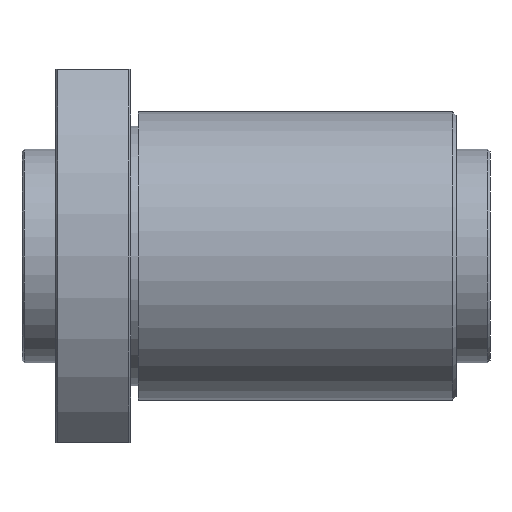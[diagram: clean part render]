
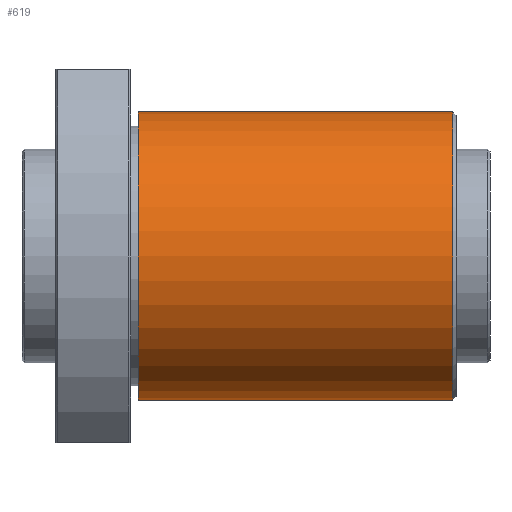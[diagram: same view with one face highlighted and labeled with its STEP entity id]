
A CAD part, front view. The second image highlights one B-rep face of the part: STEP entity #619.
In plain terms, the highlighted cylindrical face has radius 42.5 mm (diameter 85 mm), a full revolution.
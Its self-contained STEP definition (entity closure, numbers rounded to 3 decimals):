
#61=CYLINDRICAL_SURFACE('',#724,42.5);
#152=ORIENTED_EDGE('',*,*,#270,.T.);
#153=ORIENTED_EDGE('',*,*,#269,.F.);
#269=EDGE_CURVE('',#328,#328,#377,.T.);
#270=EDGE_CURVE('',#329,#329,#378,.T.);
#328=VERTEX_POINT('',#1136);
#329=VERTEX_POINT('',#1139);
#377=CIRCLE('',#723,42.5);
#378=CIRCLE('',#725,42.5);
#435=EDGE_LOOP('',(#152));
#436=EDGE_LOOP('',(#153));
#531=FACE_BOUND('',#435,.T.);
#532=FACE_BOUND('',#436,.T.);
#619=ADVANCED_FACE('',(#531,#532),#61,.T.);
#723=AXIS2_PLACEMENT_3D('',#1135,#878,#879);
#724=AXIS2_PLACEMENT_3D('',#1137,#880,#881);
#725=AXIS2_PLACEMENT_3D('',#1138,#882,#883);
#878=DIRECTION('',(1.,0.,0.));
#879=DIRECTION('',(0.,0.,-1.));
#880=DIRECTION('',(1.,0.,0.));
#881=DIRECTION('',(0.,0.,-1.));
#882=DIRECTION('',(1.,0.,0.));
#883=DIRECTION('',(0.,0.,-1.));
#1135=CARTESIAN_POINT('',(117.,0.,0.));
#1136=CARTESIAN_POINT('',(117.,0.,-42.5));
#1137=CARTESIAN_POINT('',(50.,0.,0.));
#1138=CARTESIAN_POINT('',(24.3,0.,0.));
#1139=CARTESIAN_POINT('',(24.3,0.,-42.5));
